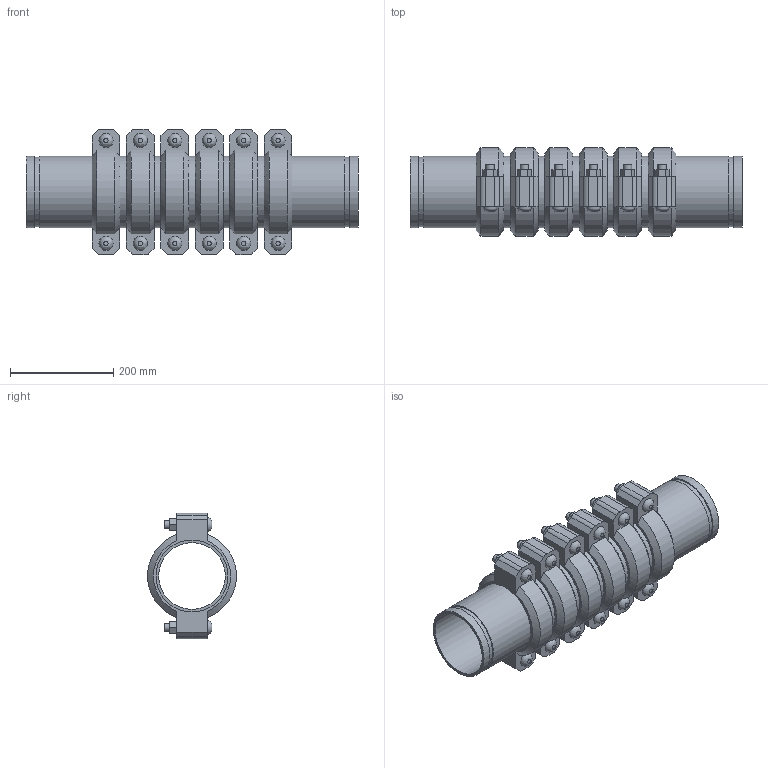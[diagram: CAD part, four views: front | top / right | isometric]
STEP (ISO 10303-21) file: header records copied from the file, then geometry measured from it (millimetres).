
FILE_DESCRIPTION(/* description */ ('VIC EXPANSION JOINT 6 COUPLINGS EXPANDED STYLE 155 (OGS)','CAx-IF Rec.Pracs.---Representation and Presentation of Product Manufacturing Information (PMI)---4.0---2014-10-13'),/* implementation_level */ '2;1');
FILE_NAME(/* name */ 'C:\Users\kkamble\AppData\Roaming\Autodesk\ApplicationPlugins\Victaulic.Temp\A6\Victaulic_IPS_Expansion Joint_Expanded_6 Couplings_Style 155 (OGS)_05.0 (139.7) (125).stp',/* time_stamp */ '2021-06-27T00:04:56+02:00',/* author */ ('kkamble'),/* organization */ ('Victaulic'),/* preprocessor_version */ 'ST-DEVELOPER v17.2',/* originating_system */ 'Autodesk Inventor 2019',/* authorisation */ '');
FILE_SCHEMA (('AP242_MANAGED_MODEL_BASED_3D_ENGINEERING_MIM_LF { 1 0 10303 442 1 1 4 }'));
Length unit declared in the file: inch
Products named in the file (4): 155-05.0 (139.7); Nipple-05.0 (139.7); Nipple-05.0 (139.7)_1; 075-05.0 (139.7)
Assembly tree (13 placements, depth 2):
  155-05.0 (139.7)
    Nipple-05.0 (139.7)  x2
    Nipple-05.0 (139.7)_1  x5
    075-05.0 (139.7)  x6
Bounding box: 644.4 x 172.14 x 243.59 mm (x, y, z)
Volume: 5050169.4 mm3; surface area: 1172199 mm2
Topology: 13 solids, 25 shells, 426 faces, 1008 edges, 708 vertices
Faces by surface type: plane 258, cylinder 132, cone 24, bspline 12
Full cylindrical faces by diameter (mm): 15.875 x24, 17.424 x12, 129.388 x7, 133.35 x6, 135.484 x14, 139.7 x33
Entity records: 2817 total; most frequent: CARTESIAN_POINT 497, DIRECTION 469, ORIENTED_EDGE 386, EDGE_CURVE 193, AXIS2_PLACEMENT_3D 188, VERTEX_POINT 138, EDGE_LOOP 107, LINE 93
